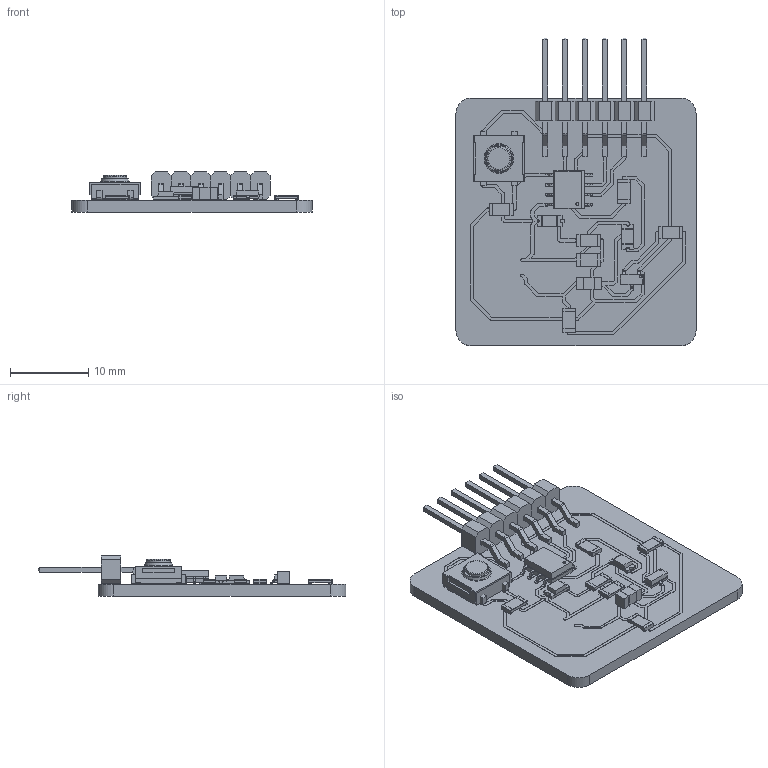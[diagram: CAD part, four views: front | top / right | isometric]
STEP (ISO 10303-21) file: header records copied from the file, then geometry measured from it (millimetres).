
FILE_DESCRIPTION(('KiCad electronic assembly'),'2;1');
FILE_NAME('DEMO.step','2025-03-05T14:37:35',('Pcbnew'),('Kicad'), 'Open CASCADE STEP processor 7.8','KiCad to STEP converter','Unknown' );
FILE_SCHEMA(('AUTOMOTIVE_DESIGN { 1 0 10303 214 1 1 1 1 }'));
Length unit declared in the file: millimetre
Products named in the file (35): DEMO 1; R_1206; Ceramic; Contacts; Contacts (Mirror #1); Overcoat; DEMO 1.3; SOIC-8_3.9x4.9mm_P1.27mm; Leads; Leads_Right; Package; Dot; LED-1206; Base; Emmiter; Contact_1; Contact_2; Switch_Omron-B3SN-3112P; Lead; Body002; Body003; Body004; Button; Cover; Header_SMD_01x06_P2.54mm_Horizontal_Male; DEMO 1.10.1; DEMO 1.10.2; C_1206; Terminator_Left; Terminator_Right; Capacitor_Body; DEMO_copper; DEMO_PCB
Assembly tree (43 placements, depth 4):
  DEMO 1
    R_1206  x6
      Ceramic
      Contacts
      Contacts (Mirror #1)
      Overcoat
    DEMO 1.3
    SOIC-8_3.9x4.9mm_P1.27mm
      Leads
        Leads_Right  x4
      Package
      Dot
    LED-1206  x2
      Base
      Emmiter
      Contact_1
      Contact_2
    Switch_Omron-B3SN-3112P
      Base
      Leads
        Lead
        Body002
        Body003
        Body004
      Button
      Cover
    Header_SMD_01x06_P2.54mm_Horizontal_Male
      DEMO 1.10.1
      DEMO 1.10.2
    C_1206
      Terminator_Left
      Terminator_Right
      Capacitor_Body
    DEMO_copper
    DEMO_PCB
Bounding box: 30.75 x 39.43 x 5.16 mm (x, y, z)
Volume: 1801.5 mm3; surface area: 3530.7 mm2
Topology: 80 solids, 80 shells, 1140 faces, 2757 edges, 1777 vertices
Faces by surface type: plane 942, cylinder 182, revolution 12, torus 3, cone 1
Full cylindrical faces by diameter (mm): 0.4 x2, 3 x2
Entity records: 25640 total; most frequent: CARTESIAN_POINT 4332, DIRECTION 4225, ORIENTED_EDGE 4170, EDGE_CURVE 2085, LINE 1761, VECTOR 1761, VERTEX_POINT 1333, AXIS2_PLACEMENT_3D 1226
